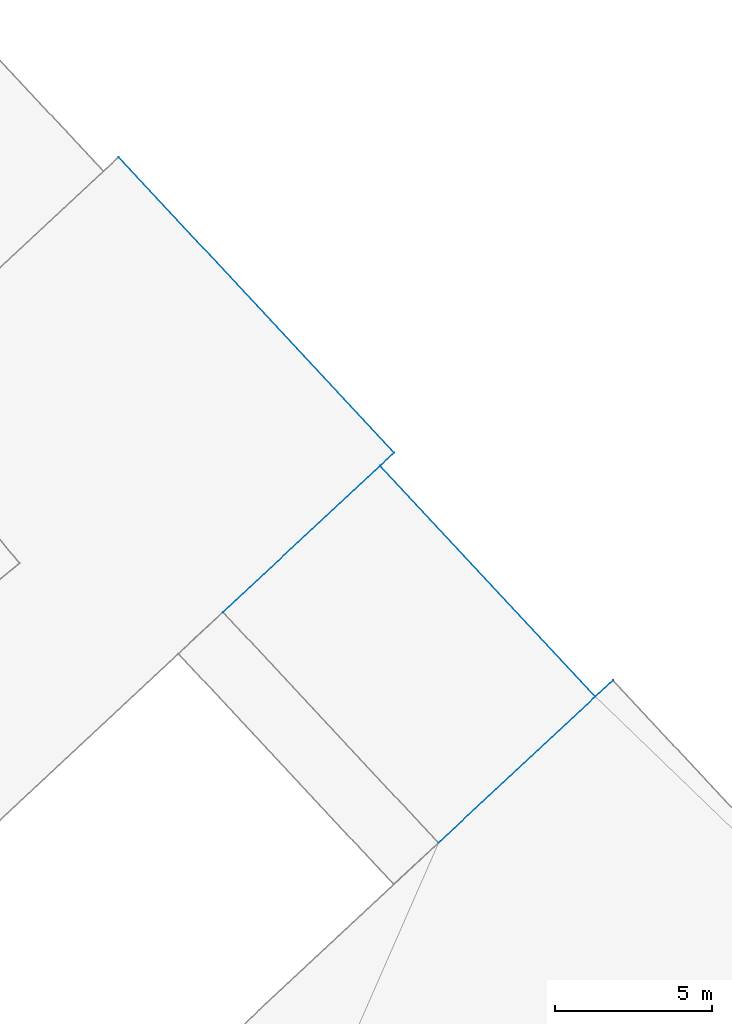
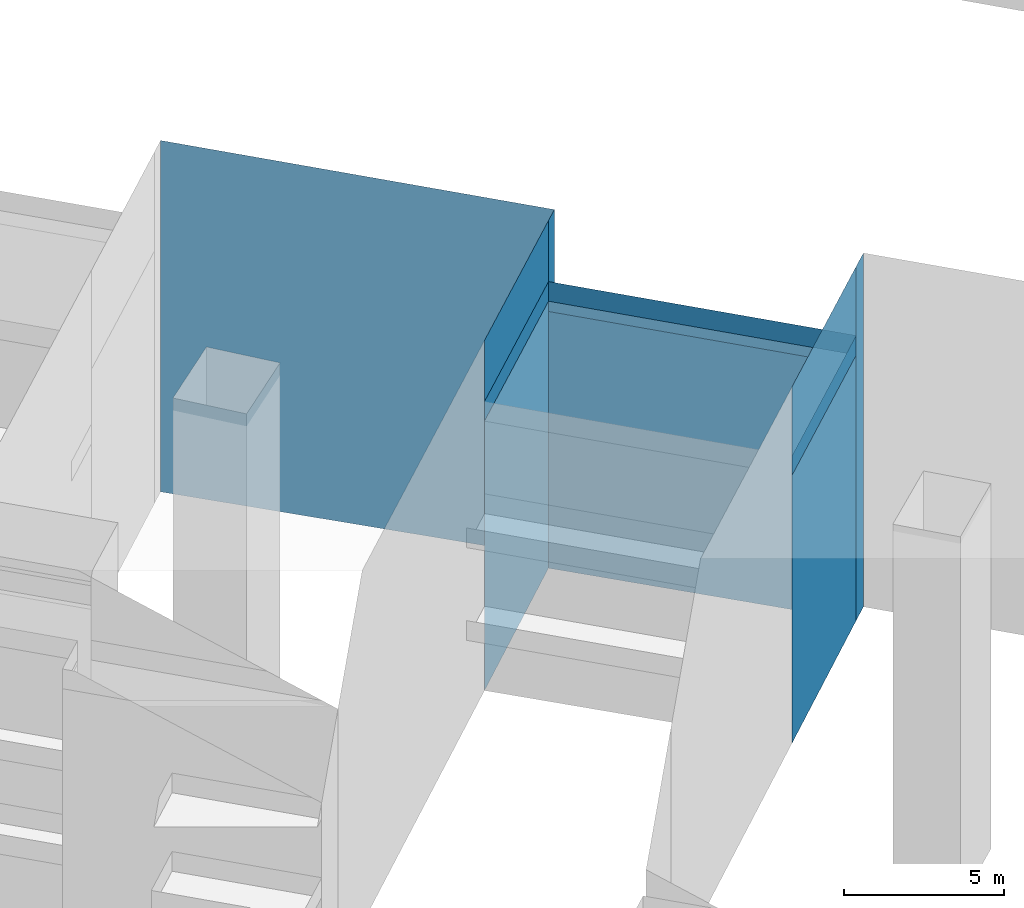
# Not in any storey, part 20 of 136: 15 walls.
"""IFC4 building model written with IfcOpenShell, lengths in metres."""

from ifc_helpers import new_model, entity, si_unit, converted_unit, frame, origin, place, context, subcontext, project, spatial, face_set, surface_model, element, save


model = new_model("IFC4")

# Units and contexts
model_context = context("Model", 3, precision=1e-05, world=origin())
body_context = subcontext(model_context, "Body", "Model", "MODEL_VIEW")
ifc_project = project(units=[converted_unit("PLANEANGLEUNIT", "DEGREE", entity("IfcRatioMeasure", 0.0174532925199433), si_unit("PLANEANGLEUNIT", "RADIAN"), dimensions=[0, 0, 0, 0, 0, 0, 0]), si_unit("AREAUNIT", "SQUARE_METRE"), si_unit("LENGTHUNIT", "METRE")], contexts=[model_context])

# Site, building
site_placement = place(None, origin())
site = spatial("IfcSite", under=ifc_project, at=site_placement, Name="_site")
building_1_placement = place(site_placement, origin())
building_1 = spatial("IfcBuilding", under=site, at=building_1_placement, Name="_building")

# Walls
wall_1_placement = place(building_1_placement, origin())
element("IfcWall", 1, at=wall_1_placement, inside=building_1, Name="Wall", PredefinedType="NOTDEFINED", context=body_context, shape_type="SurfaceModel", body=[
    surface_model("IfcFaceBasedSurfaceModel", [(156.61, -19.939, 48.51), (151.62, -24.59, 48.51), (151.62, -24.59, 38.308), (156.61, -19.939, 38.4)], [face_set([[[0, 1, 2, 3]]])]),
])
wall_2_placement = place(building_1_placement, origin())
element("IfcWall", 2, at=wall_2_placement, inside=building_1, Name="Wall", PredefinedType="NOTDEFINED", context=body_context, shape_type="SurfaceModel", body=[
    surface_model("IfcFaceBasedSurfaceModel", [(149.76, -12.6, 48.51), (156.61, -19.939, 48.51), (156.61, -19.939, 38.4), (149.76, -12.6, 38.34)], [face_set([[[0, 1, 2, 3]]])]),
])
wall_3_placement = place(building_1_placement, origin())
element("IfcWall", 3, at=wall_3_placement, inside=building_1, Name="Wall", PredefinedType="NOTDEFINED", context=body_context, shape_type="SurfaceModel", body=[
    surface_model("IfcFaceBasedSurfaceModel", [(149.76, -12.6, 48.51), (156.61, -19.939, 48.51), (156.61, -19.939, 49.26), (149.76, -12.6, 49.26)], [face_set([[[0, 1, 2, 3]]])]),
])
wall_4_placement = place(building_1_placement, origin())
element("IfcWall", 4, at=wall_4_placement, inside=building_1, Name="Wall", PredefinedType="NOTDEFINED", context=body_context, shape_type="SurfaceModel", body=[
    surface_model("IfcFaceBasedSurfaceModel", [(156.61, -19.939, 48.51), (151.62, -24.59, 48.51), (151.62, -24.59, 49.26), (156.61, -19.939, 49.26)], [face_set([[[0, 1, 2, 3]]])]),
])
wall_5_placement = place(building_1_placement, origin())
element("IfcWall", 5, at=wall_5_placement, inside=building_1, Name="Wall", PredefinedType="NOTDEFINED", context=body_context, shape_type="SurfaceModel", body=[
    surface_model("IfcFaceBasedSurfaceModel", [(149.76, -12.6, 48.51), (156.61, -19.939, 48.51), (156.61, -19.939, 49.26), (149.76, -12.6, 49.26)], [face_set([[[0, 1, 2, 3]]])]),
])
wall_6_placement = place(building_1_placement, origin())
element("IfcWall", 6, at=wall_6_placement, inside=building_1, Name="Wall", PredefinedType="NOTDEFINED", context=body_context, shape_type="SurfaceModel", body=[
    surface_model("IfcFaceBasedSurfaceModel", [(149.76, -12.6, 48.12), (156.61, -19.939, 48.12), (156.61, -19.939, 38.4), (149.76, -12.6, 38.34)], [face_set([[[0, 1, 2, 3]]])]),
])
wall_7_placement = place(building_1_placement, origin())
element("IfcWall", 7, at=wall_7_placement, inside=building_1, Name="Wall", PredefinedType="NOTDEFINED", context=body_context, shape_type="SurfaceModel", body=[
    surface_model("IfcFaceBasedSurfaceModel", [(150.21, -12.18, 51.59), (149.76, -12.6, 51.59), (149.76, -12.6, 38.34), (150.21, -12.18, 38.35)], [face_set([[[0, 1, 2, 3]]])]),
])
wall_8_placement = place(building_1_placement, origin())
element("IfcWall", 8, at=wall_8_placement, inside=building_1, Name="Wall", PredefinedType="NOTDEFINED", context=body_context, shape_type="SurfaceModel", body=[
    surface_model("IfcFaceBasedSurfaceModel", [(141.45, -2.78, 51.59), (150.21, -12.18, 51.59), (150.21, -12.18, 38.35), (141.45, -2.78, 38.203)], [face_set([[[0, 1, 2, 3]]])]),
])
wall_9_placement = place(building_1_placement, origin())
element("IfcWall", 9, at=wall_9_placement, inside=building_1, Name="Wall", PredefinedType="NOTDEFINED", context=body_context, shape_type="SurfaceModel", body=[
    surface_model("IfcFaceBasedSurfaceModel", [(156.61, -19.939, 51.89), (157.17, -19.42, 51.89), (157.17, -19.42, 38.41), (156.61, -19.939, 38.4)], [face_set([[[0, 1, 2, 3]]])]),
])
wall_10_placement = place(building_1_placement, origin())
element("IfcWall", 10, at=wall_10_placement, inside=building_1, Name="Wall", PredefinedType="NOTDEFINED", context=body_context, shape_type="SurfaceModel", body=[
    surface_model("IfcFaceBasedSurfaceModel", [(151.62, -24.59, 51.89), (156.61, -19.939, 51.89), (156.61, -19.939, 48.12), (151.62, -24.59, 48.12)], [face_set([[[0, 1, 2, 3]]])]),
])

# Building
building_2_placement = place(site_placement, origin())
building_2 = spatial("IfcBuilding", under=site, at=building_2_placement, Name="_building")

# Wall
wall_11_placement = place(building_2_placement, origin())
element("IfcWall", 11, at=wall_11_placement, inside=building_2, Name="Wall", PredefinedType="NOTDEFINED", context=body_context, shape_type="SurfaceModel", body=[
    surface_model("IfcFaceBasedSurfaceModel", [(156.61, -19.939, 48.51), (151.62, -24.59, 48.51), (151.62, -24.59, 49.26), (156.61, -19.939, 49.26)], [face_set([[[0, 1, 2, 3]]])]),
])

# Building
building_3_placement = place(site_placement, origin())
building_3 = spatial("IfcBuilding", under=site, at=building_3_placement, Name="_building")

# Walls
wall_12_placement = place(building_3_placement, origin())
element("IfcWall", 12, at=wall_12_placement, inside=building_3, Name="Wall", PredefinedType="NOTDEFINED", context=body_context, shape_type="SurfaceModel", body=[
    surface_model("IfcFaceBasedSurfaceModel", [(144.77, -17.25, 48.51), (149.76, -12.6, 48.51), (149.76, -12.6, 38.34), (144.77, -17.25, 38.246)], [face_set([[[0, 1, 2, 3]]])]),
])
for number, where, name in (
    (13, (0.0, 0.0, 0.0), "Wall"),
    (14, (0.0, 0.0, 0.0), "Wall"),
):
    element("IfcWall", number, at=place(building_3_placement, frame(where)), inside=building_3, Name=name, PredefinedType="NOTDEFINED", context=body_context, shape_type="SurfaceModel", body=[
        surface_model("IfcFaceBasedSurfaceModel", [(144.77, -17.25, 48.51), (149.76, -12.6, 48.51), (149.76, -12.6, 49.26), (144.77, -17.25, 49.26)], [face_set([[[0, 1, 2, 3]]])]),
    ])
wall_13_placement = place(building_3_placement, origin())
element("IfcWall", 15, at=wall_13_placement, inside=building_3, Name="Wall", PredefinedType="NOTDEFINED", context=body_context, shape_type="SurfaceModel", body=[
    surface_model("IfcFaceBasedSurfaceModel", [(149.76, -12.6, 51.59), (144.77, -17.25, 51.59), (144.77, -17.25, 48.12), (149.76, -12.6, 48.12)], [face_set([[[0, 1, 2, 3]]])]),
])

save(model, "model.ifc")
